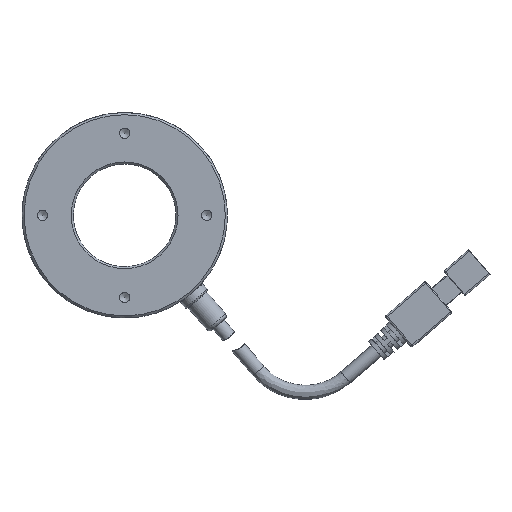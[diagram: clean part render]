
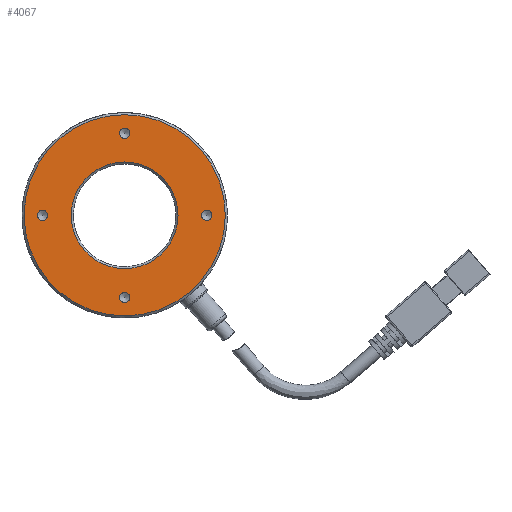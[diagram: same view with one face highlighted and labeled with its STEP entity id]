
A CAD part, front view. The second image highlights one B-rep face of the part: STEP entity #4067.
In plain terms, the highlighted planar face has unit normal (0, -1, 0).
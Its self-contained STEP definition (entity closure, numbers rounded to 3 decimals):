
#1201 = PLANE ( 'NONE',  #11875 ) ;
#1657 = FACE_OUTER_BOUND ( 'NONE', #10035, .T. ) ;
#2181 = DIRECTION ( 'NONE',  ( 0., -1., 0. ) ) ;
#2219 = EDGE_LOOP ( 'NONE', ( #2694 ) ) ;
#2323 = CARTESIAN_POINT ( 'NONE',  ( 0., 0., -13. ) ) ;
#2359 = CARTESIAN_POINT ( 'NONE',  ( 0., 0., 20. ) ) ;
#2379 = CARTESIAN_POINT ( 'NONE',  ( 20., 0., 1.25 ) ) ;
#2411 = ORIENTED_EDGE ( 'NONE', *, *, #13018, .T. ) ;
#2416 = DIRECTION ( 'NONE',  ( 0., 1., 0. ) ) ;
#2694 = ORIENTED_EDGE ( 'NONE', *, *, #10163, .T. ) ;
#3060 = VERTEX_POINT ( 'NONE', #2379 ) ;
#3270 = VERTEX_POINT ( 'NONE', #5424 ) ;
#3506 = CIRCLE ( 'NONE', #11587, 24.5 ) ;
#4067 = ADVANCED_FACE ( 'NONE', ( #1657, #13469, #14826, #11928, #7229, #8330 ), #1201, .F. ) ;
#4233 = DIRECTION ( 'NONE',  ( 0., 0., 1. ) ) ;
#4254 = CIRCLE ( 'NONE', #12610, 1.25 ) ;
#5048 = AXIS2_PLACEMENT_3D ( 'NONE', #2359, #2416, #5267 ) ;
#5267 = DIRECTION ( 'NONE',  ( 0., 0., 1. ) ) ;
#5360 = CARTESIAN_POINT ( 'NONE',  ( 0., 0., -18.75 ) ) ;
#5392 = DIRECTION ( 'NONE',  ( 0., 0., 1. ) ) ;
#5396 = EDGE_LOOP ( 'NONE', ( #15207 ) ) ;
#5424 = CARTESIAN_POINT ( 'NONE',  ( 0., 0., 21.25 ) ) ;
#5481 = AXIS2_PLACEMENT_3D ( 'NONE', #13154, #8961, #11857 ) ;
#5509 = VERTEX_POINT ( 'NONE', #8171 ) ;
#6281 = CIRCLE ( 'NONE', #16731, 13. ) ;
#6283 = DIRECTION ( 'NONE',  ( 0., 0., 1. ) ) ;
#6538 = ORIENTED_EDGE ( 'NONE', *, *, #10217, .F. ) ;
#6574 = EDGE_LOOP ( 'NONE', ( #7604 ) ) ;
#6607 = DIRECTION ( 'NONE',  ( 0., 0., -1. ) ) ;
#6625 = CARTESIAN_POINT ( 'NONE',  ( -20., 0., 1.25 ) ) ;
#7229 = FACE_BOUND ( 'NONE', #5396, .T. ) ;
#7501 = ORIENTED_EDGE ( 'NONE', *, *, #11008, .T. ) ;
#7604 = ORIENTED_EDGE ( 'NONE', *, *, #11512, .F. ) ;
#8171 = CARTESIAN_POINT ( 'NONE',  ( 0., 0., 24.5 ) ) ;
#8329 = CARTESIAN_POINT ( 'NONE',  ( 0., 0., -25. ) ) ;
#8330 = FACE_BOUND ( 'NONE', #2219, .T. ) ;
#8961 = DIRECTION ( 'NONE',  ( 0., 1., 0. ) ) ;
#9216 = CARTESIAN_POINT ( 'NONE',  ( 0., 0., 0. ) ) ;
#9293 = CARTESIAN_POINT ( 'NONE',  ( 0., 0., 0. ) ) ;
#9761 = VERTEX_POINT ( 'NONE', #2323 ) ;
#10035 = EDGE_LOOP ( 'NONE', ( #6538 ) ) ;
#10163 = EDGE_CURVE ( 'NONE', #3060, #3060, #17785, .T. ) ;
#10193 = VERTEX_POINT ( 'NONE', #5360 ) ;
#10217 = EDGE_CURVE ( 'NONE', #5509, #5509, #3506, .T. ) ;
#11008 = EDGE_CURVE ( 'NONE', #14907, #14907, #11717, .T. ) ;
#11512 = EDGE_CURVE ( 'NONE', #9761, #9761, #6281, .T. ) ;
#11587 = AXIS2_PLACEMENT_3D ( 'NONE', #9216, #13600, #6283 ) ;
#11592 = CARTESIAN_POINT ( 'NONE',  ( -20., 0., 0. ) ) ;
#11717 = CIRCLE ( 'NONE', #17189, 1.25 ) ;
#11857 = DIRECTION ( 'NONE',  ( 0., 0., 1. ) ) ;
#11875 = AXIS2_PLACEMENT_3D ( 'NONE', #8329, #15515, #12723 ) ;
#11928 = FACE_BOUND ( 'NONE', #17873, .T. ) ;
#11995 = EDGE_LOOP ( 'NONE', ( #2411 ) ) ;
#12531 = CARTESIAN_POINT ( 'NONE',  ( 0., 0., -20. ) ) ;
#12610 = AXIS2_PLACEMENT_3D ( 'NONE', #12531, #13956, #5392 ) ;
#12723 = DIRECTION ( 'NONE',  ( 0., 0., 1. ) ) ;
#13018 = EDGE_CURVE ( 'NONE', #3270, #3270, #13438, .T. ) ;
#13154 = CARTESIAN_POINT ( 'NONE',  ( 20., 0., 0. ) ) ;
#13438 = CIRCLE ( 'NONE', #5048, 1.25 ) ;
#13469 = FACE_BOUND ( 'NONE', #6574, .T. ) ;
#13600 = DIRECTION ( 'NONE',  ( 0., 1., 0. ) ) ;
#13956 = DIRECTION ( 'NONE',  ( 0., 1., 0. ) ) ;
#14101 = EDGE_CURVE ( 'NONE', #10193, #10193, #4254, .T. ) ;
#14826 = FACE_BOUND ( 'NONE', #11995, .T. ) ;
#14907 = VERTEX_POINT ( 'NONE', #6625 ) ;
#15207 = ORIENTED_EDGE ( 'NONE', *, *, #14101, .T. ) ;
#15515 = DIRECTION ( 'NONE',  ( 0., 1., 0. ) ) ;
#16731 = AXIS2_PLACEMENT_3D ( 'NONE', #9293, #2181, #6607 ) ;
#17189 = AXIS2_PLACEMENT_3D ( 'NONE', #11592, #18444, #4233 ) ;
#17785 = CIRCLE ( 'NONE', #5481, 1.25 ) ;
#17873 = EDGE_LOOP ( 'NONE', ( #7501 ) ) ;
#18444 = DIRECTION ( 'NONE',  ( 0., 1., 0. ) ) ;
